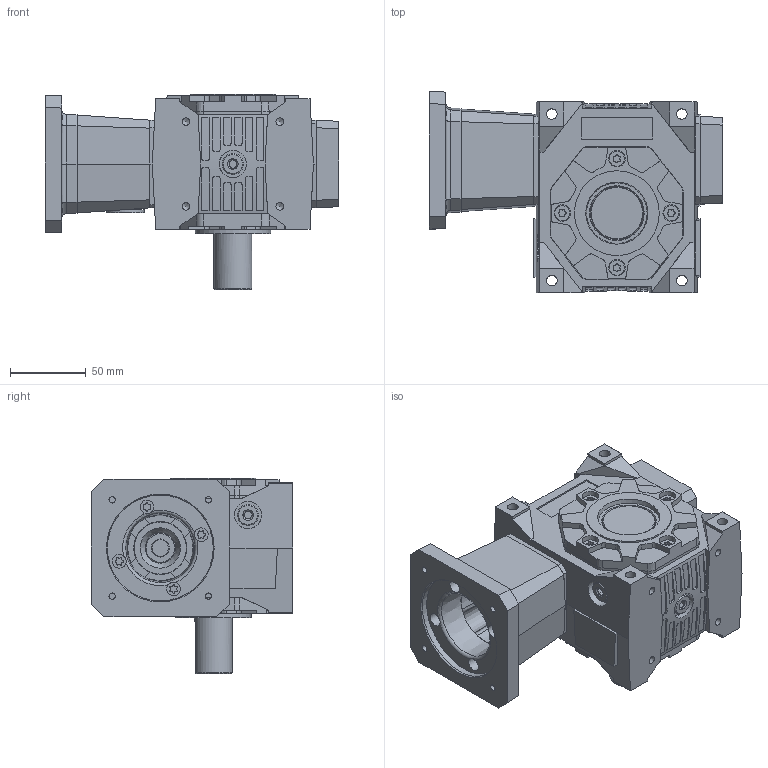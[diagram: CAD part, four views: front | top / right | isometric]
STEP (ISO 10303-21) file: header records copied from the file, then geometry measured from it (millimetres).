
FILE_DESCRIPTION( ( 'STEP AP203' ), '1' );
FILE_NAME( ' ', ' ', ( ' ' ), ( ' ' ), 'XStep 1.0', ' ', ' ' );
FILE_SCHEMA( ( 'CONFIG_CONTROL_DESIGN' ) );
Length unit declared in the file: millimetre
Products named in the file (33): 1; 2; 3; 4; 5; 6; 7; 8; 9; 10; 11; 12; 13; 14; 15; 16; 17; 18; 19; 20; 21; 22; 23; 24; 25; 26; 27; 28; 29; 30; 31; 32; 33
Bounding box: 194 x 133.08 x 129 mm (x, y, z)
Volume: 826033.6 mm3; surface area: 281370.5 mm2
Topology: 33 solids, 33 shells, 1611 faces, 4002 edges, 2545 vertices
Faces by surface type: plane 709, cylinder 681, cone 121, torus 45, sphere 33, bspline 22
Full cylindrical faces by diameter (mm): 3.5 x4, 4 x4, 4.2 x12, 5 x52, 6 x36, 6.6 x4, 7 x12, 8.5 x6, 9 x4, 9.73 x8, 10 x16, 11 x8, 12 x1, 14 x8, 14.5 x2, 15 x1, 18 x5, 19 x1, 20 x4, 20.7 x1, 22.82 x1, 23.9 x1, 24 x1, 25 x4, 27 x1, 28.5 x1, 30 x3, 31 x2, 32 x1, 33 x2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
Entity records: 50926 total; most frequent: CARTESIAN_POINT 12641, DIRECTION 7980, ORIENTED_EDGE 6992, EDGE_CURVE 3496, AXIS2_PLACEMENT_3D 3152, VERTEX_POINT 2443, EDGE_LOOP 2168, FACE_OUTER_BOUND 1857
